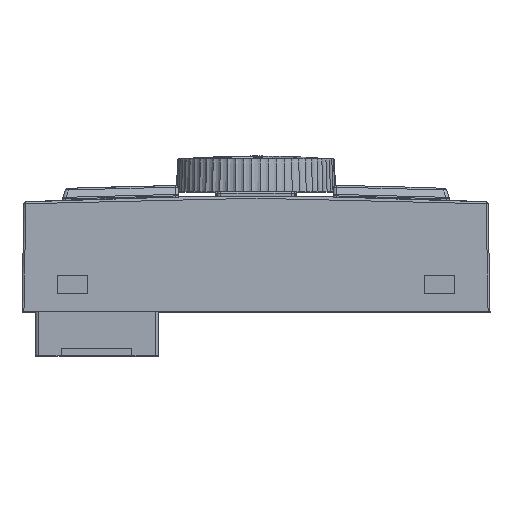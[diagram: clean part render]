
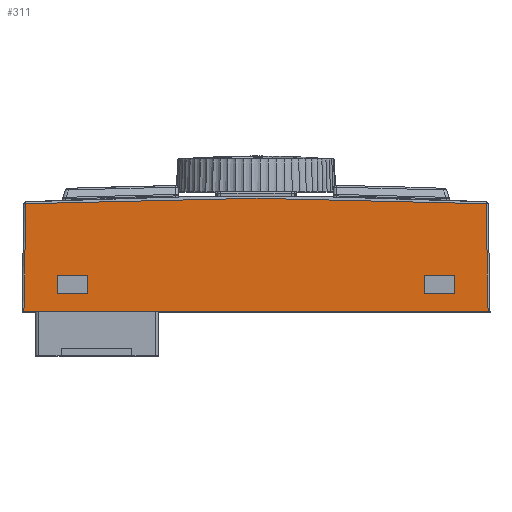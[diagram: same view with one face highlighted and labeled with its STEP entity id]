
A CAD part, top view. The second image highlights one B-rep face of the part: STEP entity #311.
In plain terms, the highlighted planar face has unit normal (0, 0.009, 1).
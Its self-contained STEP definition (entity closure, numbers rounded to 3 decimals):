
#311=ADVANCED_FACE('',(#16348,#16350,#16352),#16354,.T.);
#16348=FACE_BOUND('',#16349,.T.);
#16349=EDGE_LOOP('',(#41111,#41112,#41113,#41114));
#16350=FACE_BOUND('',#16351,.T.);
#16351=EDGE_LOOP('',(#41115,#41116,#41117,#41118));
#16352=FACE_BOUND('',#16353,.T.);
#16353=EDGE_LOOP('',(#41119,#41120,#41121,#41122));
#16354=PLANE('',#16355);
#16355=AXIS2_PLACEMENT_3D('',#16356,#16357,#16358);
#16356=CARTESIAN_POINT('',(-39.757,119.2,19.387));
#16357=DIRECTION('',(0.,0.009,1.));
#16358=DIRECTION('',(-1.,0.,0.));
#41111=ORIENTED_EDGE('',*,*,#50652,.F.);
#41112=ORIENTED_EDGE('',*,*,#50653,.T.);
#41113=ORIENTED_EDGE('',*,*,#50654,.F.);
#41114=ORIENTED_EDGE('',*,*,#50651,.F.);
#41115=ORIENTED_EDGE('',*,*,#50655,.T.);
#41116=ORIENTED_EDGE('',*,*,#50656,.T.);
#41117=ORIENTED_EDGE('',*,*,#50657,.T.);
#41118=ORIENTED_EDGE('',*,*,#50658,.T.);
#41119=ORIENTED_EDGE('',*,*,#50659,.T.);
#41120=ORIENTED_EDGE('',*,*,#50660,.T.);
#41121=ORIENTED_EDGE('',*,*,#50661,.T.);
#41122=ORIENTED_EDGE('',*,*,#50662,.T.);
#50651=EDGE_CURVE('',#55397,#55395,#55399,.T.);
#50652=EDGE_CURVE('',#55400,#55397,#55401,.T.);
#50653=EDGE_CURVE('',#55400,#55402,#55403,.T.);
#50654=EDGE_CURVE('',#55395,#55402,#55404,.T.);
#50655=EDGE_CURVE('',#55405,#55406,#55407,.T.);
#50656=EDGE_CURVE('',#55406,#55408,#55409,.T.);
#50657=EDGE_CURVE('',#55408,#55410,#55411,.T.);
#50658=EDGE_CURVE('',#55410,#55405,#55412,.T.);
#50659=EDGE_CURVE('',#55413,#55414,#55415,.T.);
#50660=EDGE_CURVE('',#55414,#55416,#55417,.T.);
#50661=EDGE_CURVE('',#55416,#55418,#55419,.T.);
#50662=EDGE_CURVE('',#55418,#55413,#55420,.T.);
#55395=VERTEX_POINT('',#63632);
#55397=VERTEX_POINT('',#63637);
#55399=B_SPLINE_CURVE_WITH_KNOTS('',3,
(#63642,#63643,#63644,#63645,#63646,#63647),
.UNSPECIFIED.,.F.,.F.,
(4,2,4),
(0.,0.5,1.),
.UNSPECIFIED.);
#55400=VERTEX_POINT('',#63648);
#55401=LINE('',#63649,#63650);
#55402=VERTEX_POINT('',#63652);
#55403=LINE('',#63653,#63654);
#55404=LINE('',#63656,#63657);
#55405=VERTEX_POINT('',#63659);
#55406=VERTEX_POINT('',#63660);
#55407=LINE('',#63661,#63662);
#55408=VERTEX_POINT('',#63664);
#55409=LINE('',#63665,#63666);
#55410=VERTEX_POINT('',#63668);
#55411=LINE('',#63669,#63670);
#55412=LINE('',#63672,#63673);
#55413=VERTEX_POINT('',#63675);
#55414=VERTEX_POINT('',#63676);
#55415=LINE('',#63677,#63678);
#55416=VERTEX_POINT('',#63680);
#55417=LINE('',#63681,#63682);
#55418=VERTEX_POINT('',#63684);
#55419=LINE('',#63685,#63686);
#55420=LINE('',#63688,#63689);
#63632=CARTESIAN_POINT('',(35.705,135.856,19.242));
#63637=CARTESIAN_POINT('',(-35.705,135.856,19.242));
#63642=CARTESIAN_POINT('',(-35.705,135.856,19.242));
#63643=CARTESIAN_POINT('',(-23.803,136.279,19.238));
#63644=CARTESIAN_POINT('',(-11.902,136.703,19.235));
#63645=CARTESIAN_POINT('',(11.902,136.703,19.235));
#63646=CARTESIAN_POINT('',(23.803,136.279,19.238));
#63647=CARTESIAN_POINT('',(35.705,135.856,19.242));
#63648=CARTESIAN_POINT('',(-35.996,119.2,19.387));
#63649=CARTESIAN_POINT('',(-35.996,119.2,19.387));
#63650=VECTOR('',#63651,1.);
#63651=DIRECTION('',(0.017,1.,-0.009));
#63652=CARTESIAN_POINT('',(35.996,119.2,19.387));
#63653=CARTESIAN_POINT('',(-35.996,119.2,19.387));
#63654=VECTOR('',#63655,1.);
#63655=DIRECTION('',(1.,0.,0.));
#63656=CARTESIAN_POINT('',(35.705,135.856,19.242));
#63657=VECTOR('',#63658,1.);
#63658=DIRECTION('',(0.017,-1.,0.009));
#63659=CARTESIAN_POINT('',(30.85,121.9,19.364));
#63660=CARTESIAN_POINT('',(26.15,121.9,19.364));
#63661=CARTESIAN_POINT('',(30.85,121.9,19.364));
#63662=VECTOR('',#63663,1.);
#63663=DIRECTION('',(-1.,0.,0.));
#63664=CARTESIAN_POINT('',(26.15,124.7,19.339));
#63665=CARTESIAN_POINT('',(26.15,121.9,19.364));
#63666=VECTOR('',#63667,1.);
#63667=DIRECTION('',(0.,1.,-0.009));
#63668=CARTESIAN_POINT('',(30.85,124.7,19.339));
#63669=CARTESIAN_POINT('',(26.15,124.7,19.339));
#63670=VECTOR('',#63671,1.);
#63671=DIRECTION('',(1.,0.,0.));
#63672=CARTESIAN_POINT('',(30.85,124.7,19.339));
#63673=VECTOR('',#63674,1.);
#63674=DIRECTION('',(0.,-1.,0.009));
#63675=CARTESIAN_POINT('',(-30.85,121.9,19.364));
#63676=CARTESIAN_POINT('',(-30.85,124.7,19.339));
#63677=CARTESIAN_POINT('',(-30.85,121.9,19.364));
#63678=VECTOR('',#63679,1.);
#63679=DIRECTION('',(0.,1.,-0.009));
#63680=CARTESIAN_POINT('',(-26.15,124.7,19.339));
#63681=CARTESIAN_POINT('',(-30.85,124.7,19.339));
#63682=VECTOR('',#63683,1.);
#63683=DIRECTION('',(1.,0.,0.));
#63684=CARTESIAN_POINT('',(-26.15,121.9,19.364));
#63685=CARTESIAN_POINT('',(-26.15,124.7,19.339));
#63686=VECTOR('',#63687,1.);
#63687=DIRECTION('',(0.,-1.,0.009));
#63688=CARTESIAN_POINT('',(-26.15,121.9,19.364));
#63689=VECTOR('',#63690,1.);
#63690=DIRECTION('',(-1.,0.,0.));
